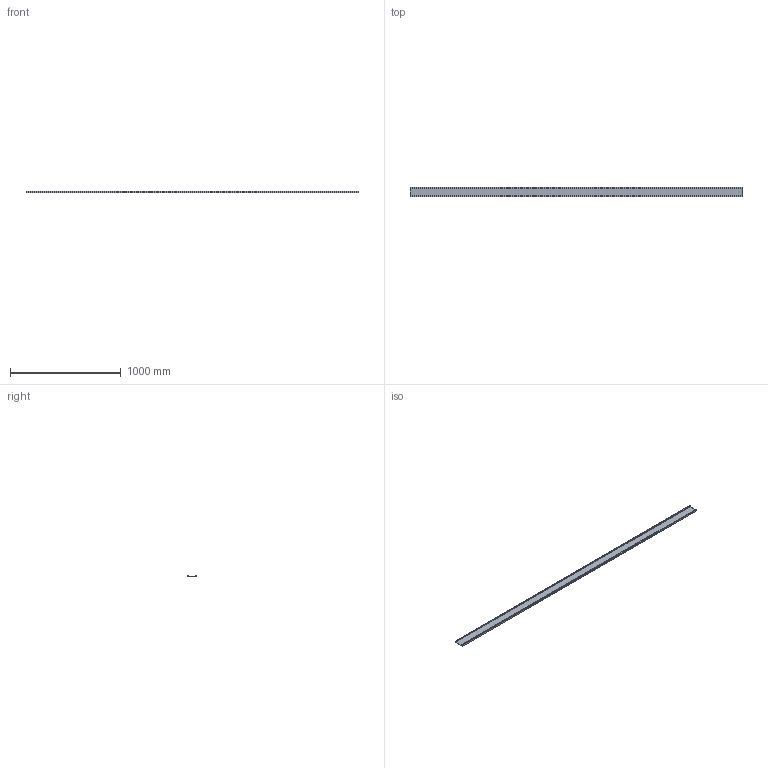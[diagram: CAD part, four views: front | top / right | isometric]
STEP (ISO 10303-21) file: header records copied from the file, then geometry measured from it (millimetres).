
FILE_DESCRIPTION (( 'STEP AP214' ), '1' );
FILE_NAME ('FABER - FD7 9.step', '2017-04-06T07:45:57', ( '' ), ( '' ), 'SwSTEP 2.0', 'SolidWorks 2016', '' );
FILE_SCHEMA (( 'AUTOMOTIVE_DESIGN' ));
Length unit declared in the file: millimetre
Products named in the file (1): FABER - FD7 9
Bounding box: 3000 x 90 x 15 mm (x, y, z)
Volume: 1735500 mm3; surface area: 757157 mm2
Topology: 1 solids, 1 shells, 14 faces, 36 edges, 24 vertices
Faces by surface type: plane 14
Entity records: 454 total; most frequent: CARTESIAN_POINT 75, ORIENTED_EDGE 72, DIRECTION 66, LINE 36, EDGE_CURVE 36, VECTOR 36, VERTEX_POINT 24, AXIS2_PLACEMENT_3D 15
